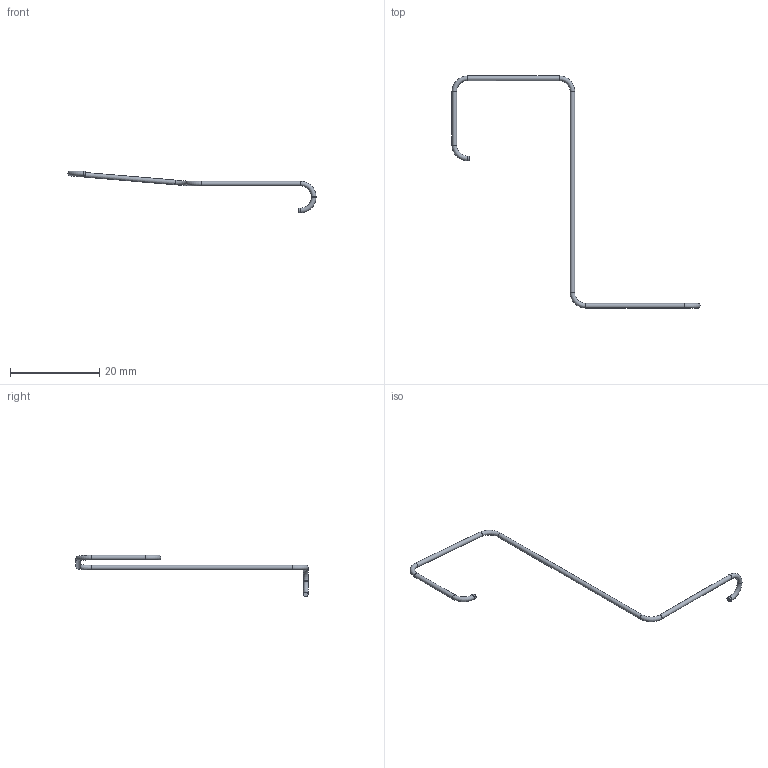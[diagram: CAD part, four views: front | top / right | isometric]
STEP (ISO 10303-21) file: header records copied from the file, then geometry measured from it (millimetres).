
FILE_DESCRIPTION(('Open CASCADE Model'),'2;1');
FILE_NAME('R36_J8_LED_PH_LEAD_4_OD1p05_R3','2026-09-15T14:14:49',( 'Author'),('Open CASCADE'),'Open CASCADE STEP processor 7.9', 'build123d','Unknown');
FILE_SCHEMA(('AUTOMOTIVE_DESIGN { 1 0 10303 214 1 1 1 1 }'));
Length unit declared in the file: millimetre
Products named in the file (1): R36_J8_LED_PH_LEAD_4_OD1p05_R3
Bounding box: 55.66 x 52.09 x 9.33 mm (x, y, z)
Volume: 111.8 mm3; surface area: 427.4 mm2
Topology: 1 solids, 1 shells, 15 faces, 27 edges, 14 vertices
Faces by surface type: cylinder 7, torus 6, plane 2
Full cylindrical faces by diameter (mm): 1.05 x7
Entity records: 701 total; most frequent: CARTESIAN_POINT 136, DIRECTION 108, ORIENTED_EDGE 54, PCURVE 54, DEFINITIONAL_REPRESENTATION 54, AXIS2_PLACEMENT_3D 36, LINE 34, VECTOR 34
